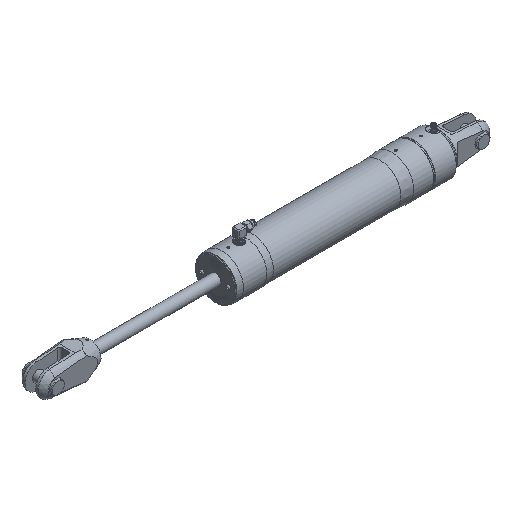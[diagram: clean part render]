
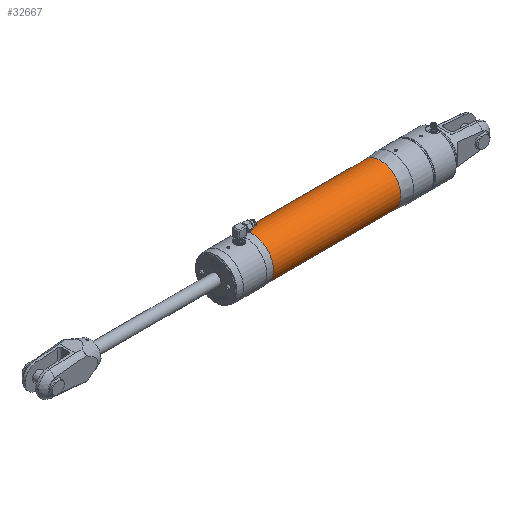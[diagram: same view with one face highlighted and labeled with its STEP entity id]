
A CAD part, isometric view. The second image highlights one B-rep face of the part: STEP entity #32667.
In plain terms, the highlighted cylindrical face has radius 49.6 mm (diameter 99.2 mm), a full revolution.
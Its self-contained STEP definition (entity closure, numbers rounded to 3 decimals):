
#1111=LINE('',#43634,#4065);
#4065=VECTOR('',#36623,49.6);
#7879=CYLINDRICAL_SURFACE('',#34575,49.6);
#8075=FACE_OUTER_BOUND('',#9863,.T.);
#9863=EDGE_LOOP('',(#21782,#21783,#21784,#21785,#21786,#21787));
#11754=CIRCLE('',#34573,49.6);
#11755=CIRCLE('',#34574,49.6);
#11756=CIRCLE('',#34576,49.6);
#11757=CIRCLE('',#34577,49.6);
#13460=VERTEX_POINT('',#43625);
#13461=VERTEX_POINT('',#43626);
#13462=VERTEX_POINT('',#43631);
#13463=VERTEX_POINT('',#43632);
#16730=EDGE_CURVE('',#13460,#13461,#11754,.T.);
#16732=EDGE_CURVE('',#13461,#13460,#11755,.T.);
#16733=EDGE_CURVE('',#13462,#13463,#11756,.T.);
#16734=EDGE_CURVE('',#13463,#13461,#1111,.T.);
#16735=EDGE_CURVE('',#13463,#13462,#11757,.T.);
#21782=ORIENTED_EDGE('',*,*,#16733,.T.);
#21783=ORIENTED_EDGE('',*,*,#16734,.T.);
#21784=ORIENTED_EDGE('',*,*,#16730,.F.);
#21785=ORIENTED_EDGE('',*,*,#16732,.F.);
#21786=ORIENTED_EDGE('',*,*,#16734,.F.);
#21787=ORIENTED_EDGE('',*,*,#16735,.T.);
#32667=ADVANCED_FACE('',(#8075),#7879,.T.);
#34573=AXIS2_PLACEMENT_3D('',#43627,#36614,#36615);
#34574=AXIS2_PLACEMENT_3D('',#43629,#36617,#36618);
#34575=AXIS2_PLACEMENT_3D('',#43630,#36619,#36620);
#34576=AXIS2_PLACEMENT_3D('',#43633,#36621,#36622);
#34577=AXIS2_PLACEMENT_3D('',#43635,#36624,#36625);
#36614=DIRECTION('center_axis',(1.,0.,0.));
#36615=DIRECTION('ref_axis',(0.,0.,
-1.));
#36617=DIRECTION('center_axis',(1.,0.,0.));
#36618=DIRECTION('ref_axis',(0.,0.,
-1.));
#36619=DIRECTION('center_axis',(1.,0.,0.));
#36620=DIRECTION('ref_axis',(0.,0.,
1.));
#36621=DIRECTION('center_axis',(1.,0.,0.));
#36622=DIRECTION('ref_axis',(0.,0.,
-1.));
#36623=DIRECTION('',(1.,0.,0.));
#36624=DIRECTION('center_axis',(1.,0.,0.));
#36625=DIRECTION('ref_axis',(0.,0.,
-1.));
#43625=CARTESIAN_POINT('',(-67.003,0.,49.6));
#43626=CARTESIAN_POINT('',(-67.003,0.,-49.6));
#43627=CARTESIAN_POINT('Origin',(-67.003,0.,
0.));
#43629=CARTESIAN_POINT('Origin',(-67.003,0.,
0.));
#43630=CARTESIAN_POINT('Origin',(-220.618,0.,
0.));
#43631=CARTESIAN_POINT('',(-374.234,0.,49.6));
#43632=CARTESIAN_POINT('',(-374.234,0.,-49.6));
#43633=CARTESIAN_POINT('Origin',(-374.234,0.,
0.));
#43634=CARTESIAN_POINT('',(-220.618,0.,-49.6));
#43635=CARTESIAN_POINT('Origin',(-374.234,0.,
0.));
